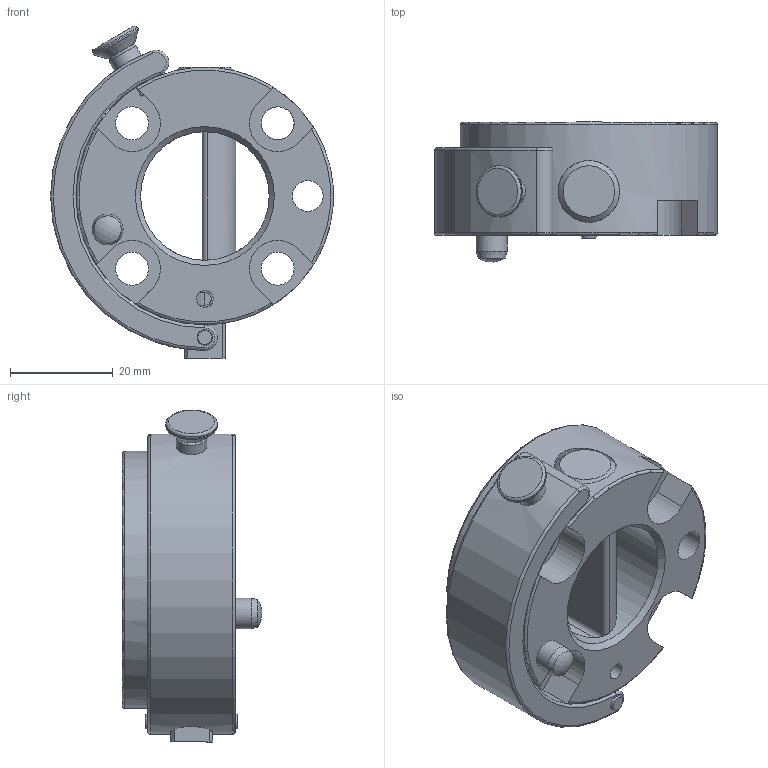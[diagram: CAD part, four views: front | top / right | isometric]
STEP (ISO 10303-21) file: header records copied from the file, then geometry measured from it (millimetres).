
FILE_DESCRIPTION((''),'2;1');
FILE_NAME('T:\CAD\Standard\Daten\3D-Datenbank\MGW\4 - 3D-CAD-Daten MGW 050-160\MGW050\step-Daten\G-MGW050-2O.stp','2013-06-12T14:15:01',('Yvonne'),(''),'Autodesk Inventor 2011','Autodesk Inventor 2011','');
FILE_SCHEMA(('AUTOMOTIVE_DESIGN { 1 0 10303 214 1 1 1 1 }'));
Length unit declared in the file: millimetre
Products named in the file (1): Bauteil2
Bounding box: 54.99 x 27.17 x 64.55 mm (x, y, z)
Volume: 35070.6 mm3; surface area: 15051.9 mm2
Topology: 1 solids, 2 shells, 135 faces, 340 edges, 216 vertices
Faces by surface type: cylinder 49, plane 48, torus 17, cone 15, bspline 4, sphere 2
Full cylindrical faces by diameter (mm): 2.5 x1, 3 x1, 3.1 x1, 3.242 x3, 3.5 x1, 5.8 x1, 6 x4, 6.4 x4, 10 x1, 12 x2, 25 x1, 50 x1
Entity records: 4438 total; most frequent: CARTESIAN_POINT 1277, DIRECTION 635, ORIENTED_EDGE 562, EDGE_CURVE 281, AXIS2_PLACEMENT_3D 271, EDGE_LOOP 202, VERTEX_POINT 197, CIRCLE 138
